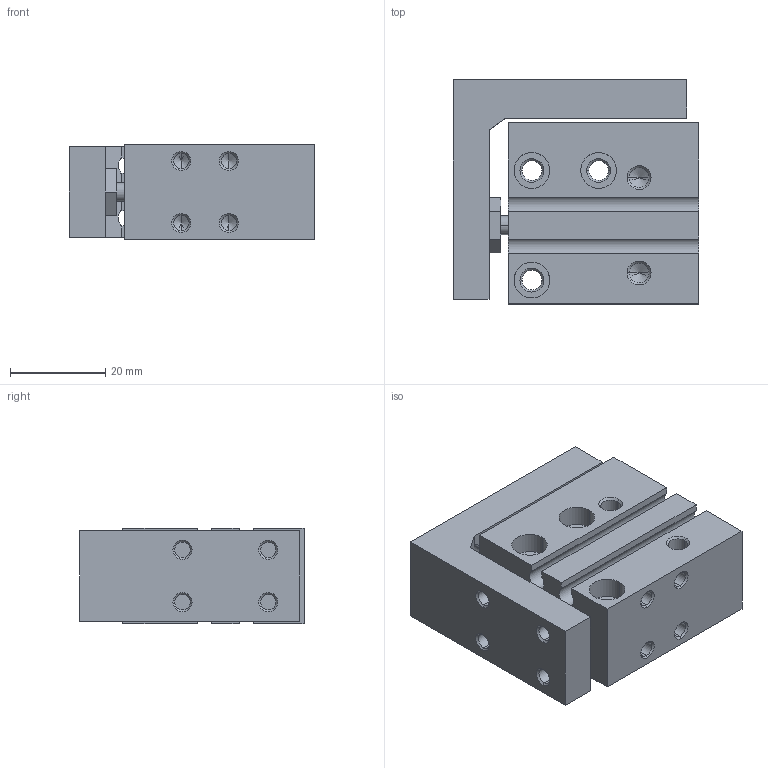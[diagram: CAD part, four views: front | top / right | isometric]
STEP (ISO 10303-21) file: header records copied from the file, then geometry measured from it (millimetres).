
FILE_DESCRIPTION (( 'STEP AP203' ), '1' );
FILE_NAME ('CXH10-5.STEP', '2020-04-16T18:05:32', ( '' ), ( '' ), 'SwSTEP 2.0', 'SolidWorks 2019', '' );
FILE_SCHEMA (( 'CONFIG_CONTROL_DESIGN' ));
Length unit declared in the file: millimetre
Products named in the file (1): CXH10-5
Bounding box: 51.5 x 47 x 20 mm (x, y, z)
Volume: 37490.6 mm3; surface area: 16403.1 mm2
Topology: 2 solids, 2 shells, 208 faces, 495 edges, 286 vertices
Faces by surface type: cone 88, cylinder 76, plane 44
Entity records: 5972 total; most frequent: DIRECTION 1093, CARTESIAN_POINT 1048, ORIENTED_EDGE 934, EDGE_CURVE 467, AXIS2_PLACEMENT_3D 421, VERTEX_POINT 286, EDGE_LOOP 253, VECTOR 251
